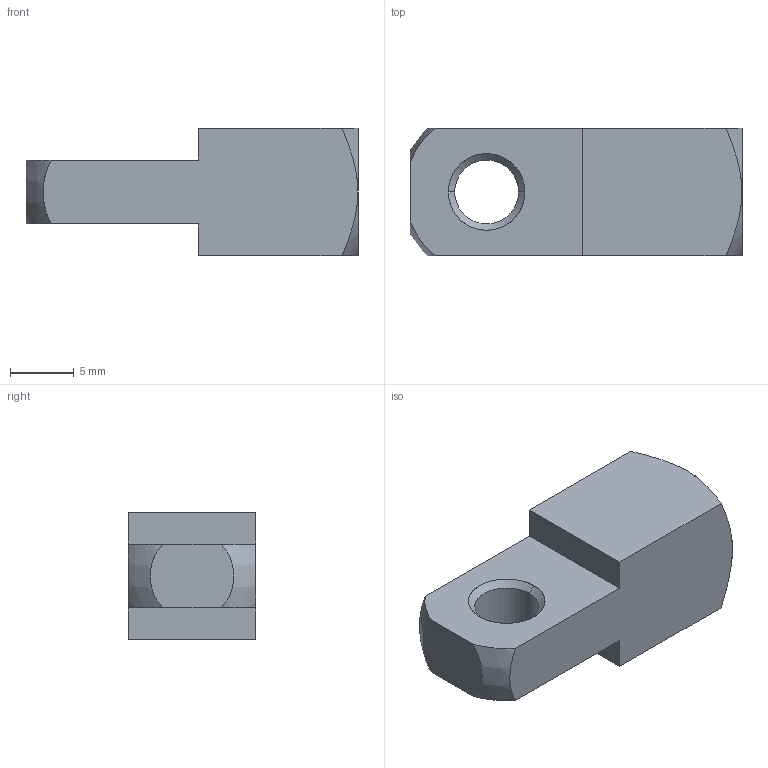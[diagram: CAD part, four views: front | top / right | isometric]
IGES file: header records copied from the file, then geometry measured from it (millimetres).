
Start section: SolidWorks IGES file using analytic representation for surfaces
Global section: file name: C:\Documents and Settings\IANO\My Documents\Wix and Auto CAD Work\CAD Models\Parametric Models\Wix Models\60000\65653_v2\65653_v2_IGES\65653.W1005.igs; native system: SolidWorks 2009; preprocessor: SolidWorks 2009; author: IANO; date: 140122.121618; units: millimetre
Bounding box: 26 x 10 x 10 mm (x, y, z)
Surface area: 1261.1 mm2 (no closed solid volume)
Topology: 0 solids, 0 shells, 31 faces, 440 edges, 438 vertices
Faces by surface type: revolution 18, bspline 13
